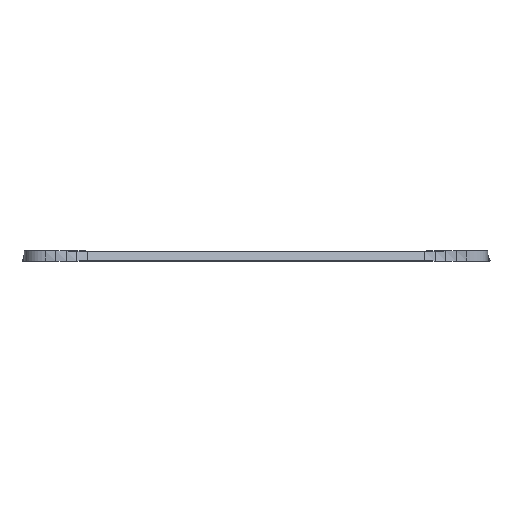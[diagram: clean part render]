
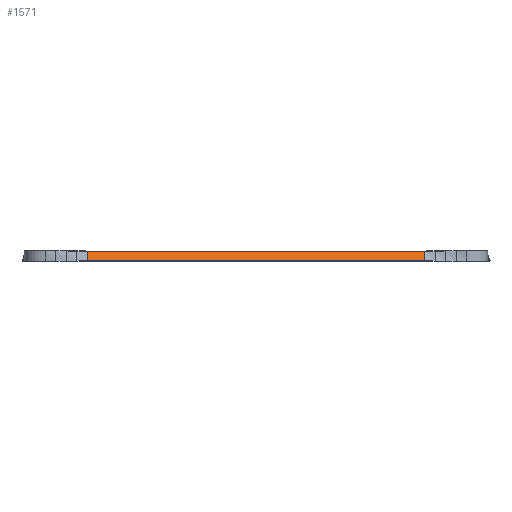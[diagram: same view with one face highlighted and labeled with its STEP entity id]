
A CAD part, front view. The second image highlights one B-rep face of the part: STEP entity #1571.
In plain terms, the highlighted planar face has unit normal (0, -0.906, 0.423).
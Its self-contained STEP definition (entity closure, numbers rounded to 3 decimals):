
#1571 = ADVANCED_FACE('',(#1572),#1586,.F.);
#1572 = FACE_BOUND('',#1573,.F.);
#1573 = EDGE_LOOP('',(#1574,#1609,#1634,#1662));
#1574 = ORIENTED_EDGE('',*,*,#1575,.T.);
#1575 = EDGE_CURVE('',#1576,#1578,#1580,.T.);
#1576 = VERTEX_POINT('',#1577);
#1577 = CARTESIAN_POINT('',(-128.,-161.687,14.263));
#1578 = VERTEX_POINT('',#1579);
#1579 = CARTESIAN_POINT('',(-128.,-158.222,21.695));
#1580 = SURFACE_CURVE('',#1581,(#1585,#1597),.PCURVE_S1.);
#1581 = LINE('',#1582,#1583);
#1582 = CARTESIAN_POINT('',(-128.,-161.687,14.263));
#1583 = VECTOR('',#1584,1.);
#1584 = DIRECTION('',(0.,0.423,0.906));
#1585 = PCURVE('',#1586,#1591);
#1586 = PLANE('',#1587);
#1587 = AXIS2_PLACEMENT_3D('',#1588,#1589,#1590);
#1588 = CARTESIAN_POINT('',(128.,-161.687,14.263));
#1589 = DIRECTION('',(0.,0.906,-0.423));
#1590 = DIRECTION('',(0.,0.423,0.906));
#1591 = DEFINITIONAL_REPRESENTATION('',(#1592),#1596);
#1592 = LINE('',#1593,#1594);
#1593 = CARTESIAN_POINT('',(0.,-256.));
#1594 = VECTOR('',#1595,1.);
#1595 = DIRECTION('',(1.,0.));
#1596 = ( GEOMETRIC_REPRESENTATION_CONTEXT(2) 
PARAMETRIC_REPRESENTATION_CONTEXT() REPRESENTATION_CONTEXT('2D SPACE',''
  ) );
#1597 = PCURVE('',#1598,#1603);
#1598 = PLANE('',#1599);
#1599 = AXIS2_PLACEMENT_3D('',#1600,#1601,#1602);
#1600 = CARTESIAN_POINT('',(-128.,-161.687,14.263));
#1601 = DIRECTION('',(1.,0.,0.));
#1602 = DIRECTION('',(-0.,0.539,0.842));
#1603 = DEFINITIONAL_REPRESENTATION('',(#1604),#1608);
#1604 = LINE('',#1605,#1606);
#1605 = CARTESIAN_POINT('',(0.,0.));
#1606 = VECTOR('',#1607,1.);
#1607 = DIRECTION('',(0.991,0.133));
#1608 = ( GEOMETRIC_REPRESENTATION_CONTEXT(2) 
PARAMETRIC_REPRESENTATION_CONTEXT() REPRESENTATION_CONTEXT('2D SPACE',''
  ) );
#1609 = ORIENTED_EDGE('',*,*,#1610,.T.);
#1610 = EDGE_CURVE('',#1578,#1611,#1613,.T.);
#1611 = VERTEX_POINT('',#1612);
#1612 = CARTESIAN_POINT('',(128.,-158.222,21.695));
#1613 = SURFACE_CURVE('',#1614,(#1617,#1623),.PCURVE_S1.);
#1614 = B_SPLINE_CURVE_WITH_KNOTS('',1,(#1615,#1616),.UNSPECIFIED.,.F.,
  .F.,(2,2),(0.,1.),.PIECEWISE_BEZIER_KNOTS.);
#1615 = CARTESIAN_POINT('',(-128.,-158.222,21.695));
#1616 = CARTESIAN_POINT('',(128.,-158.222,21.695));
#1617 = PCURVE('',#1586,#1618);
#1618 = DEFINITIONAL_REPRESENTATION('',(#1619),#1622);
#1619 = B_SPLINE_CURVE_WITH_KNOTS('',1,(#1620,#1621),.UNSPECIFIED.,.F.,
  .F.,(2,2),(0.,1.),.PIECEWISE_BEZIER_KNOTS.);
#1620 = CARTESIAN_POINT('',(8.2,-256.));
#1621 = CARTESIAN_POINT('',(8.2,0.));
#1622 = ( GEOMETRIC_REPRESENTATION_CONTEXT(2) 
PARAMETRIC_REPRESENTATION_CONTEXT() REPRESENTATION_CONTEXT('2D SPACE',''
  ) );
#1623 = PCURVE('',#1624,#1629);
#1624 = PLANE('',#1625);
#1625 = AXIS2_PLACEMENT_3D('',#1626,#1627,#1628);
#1626 = CARTESIAN_POINT('',(128.,-158.222,21.695));
#1627 = DIRECTION('',(0.,-0.423,-0.906));
#1628 = DIRECTION('',(0.,0.906,-0.423));
#1629 = DEFINITIONAL_REPRESENTATION('',(#1630),#1633);
#1630 = B_SPLINE_CURVE_WITH_KNOTS('',1,(#1631,#1632),.UNSPECIFIED.,.F.,
  .F.,(2,2),(0.,1.),.PIECEWISE_BEZIER_KNOTS.);
#1631 = CARTESIAN_POINT('',(0.,-256.));
#1632 = CARTESIAN_POINT('',(0.,0.));
#1633 = ( GEOMETRIC_REPRESENTATION_CONTEXT(2) 
PARAMETRIC_REPRESENTATION_CONTEXT() REPRESENTATION_CONTEXT('2D SPACE',''
  ) );
#1634 = ORIENTED_EDGE('',*,*,#1635,.F.);
#1635 = EDGE_CURVE('',#1636,#1611,#1638,.T.);
#1636 = VERTEX_POINT('',#1637);
#1637 = CARTESIAN_POINT('',(128.,-161.687,14.263));
#1638 = SURFACE_CURVE('',#1639,(#1643,#1650),.PCURVE_S1.);
#1639 = LINE('',#1640,#1641);
#1640 = CARTESIAN_POINT('',(128.,-161.687,14.263));
#1641 = VECTOR('',#1642,1.);
#1642 = DIRECTION('',(0.,0.423,0.906));
#1643 = PCURVE('',#1586,#1644);
#1644 = DEFINITIONAL_REPRESENTATION('',(#1645),#1649);
#1645 = LINE('',#1646,#1647);
#1646 = CARTESIAN_POINT('',(0.,0.));
#1647 = VECTOR('',#1648,1.);
#1648 = DIRECTION('',(1.,0.));
#1649 = ( GEOMETRIC_REPRESENTATION_CONTEXT(2) 
PARAMETRIC_REPRESENTATION_CONTEXT() REPRESENTATION_CONTEXT('2D SPACE',''
  ) );
#1650 = PCURVE('',#1651,#1656);
#1651 = PLANE('',#1652);
#1652 = AXIS2_PLACEMENT_3D('',#1653,#1654,#1655);
#1653 = CARTESIAN_POINT('',(128.,-161.687,14.263));
#1654 = DIRECTION('',(1.,0.,0.));
#1655 = DIRECTION('',(-0.,0.539,0.842));
#1656 = DEFINITIONAL_REPRESENTATION('',(#1657),#1661);
#1657 = LINE('',#1658,#1659);
#1658 = CARTESIAN_POINT('',(0.,0.));
#1659 = VECTOR('',#1660,1.);
#1660 = DIRECTION('',(0.991,0.133));
#1661 = ( GEOMETRIC_REPRESENTATION_CONTEXT(2) 
PARAMETRIC_REPRESENTATION_CONTEXT() REPRESENTATION_CONTEXT('2D SPACE',''
  ) );
#1662 = ORIENTED_EDGE('',*,*,#1663,.F.);
#1663 = EDGE_CURVE('',#1576,#1636,#1664,.T.);
#1664 = SURFACE_CURVE('',#1665,(#1668,#1674),.PCURVE_S1.);
#1665 = B_SPLINE_CURVE_WITH_KNOTS('',1,(#1666,#1667),.UNSPECIFIED.,.F.,
  .F.,(2,2),(0.,1.),.PIECEWISE_BEZIER_KNOTS.);
#1666 = CARTESIAN_POINT('',(-128.,-161.687,14.263));
#1667 = CARTESIAN_POINT('',(128.,-161.687,14.263));
#1668 = PCURVE('',#1586,#1669);
#1669 = DEFINITIONAL_REPRESENTATION('',(#1670),#1673);
#1670 = B_SPLINE_CURVE_WITH_KNOTS('',1,(#1671,#1672),.UNSPECIFIED.,.F.,
  .F.,(2,2),(0.,1.),.PIECEWISE_BEZIER_KNOTS.);
#1671 = CARTESIAN_POINT('',(0.,-256.));
#1672 = CARTESIAN_POINT('',(0.,0.));
#1673 = ( GEOMETRIC_REPRESENTATION_CONTEXT(2) 
PARAMETRIC_REPRESENTATION_CONTEXT() REPRESENTATION_CONTEXT('2D SPACE',''
  ) );
#1674 = PCURVE('',#1675,#1680);
#1675 = PLANE('',#1676);
#1676 = AXIS2_PLACEMENT_3D('',#1677,#1678,#1679);
#1677 = CARTESIAN_POINT('',(128.,-160.69,13.798));
#1678 = DIRECTION('',(-0.,0.423,0.906));
#1679 = DIRECTION('',(0.,-0.906,0.423));
#1680 = DEFINITIONAL_REPRESENTATION('',(#1681),#1684);
#1681 = B_SPLINE_CURVE_WITH_KNOTS('',1,(#1682,#1683),.UNSPECIFIED.,.F.,
  .F.,(2,2),(0.,1.),.PIECEWISE_BEZIER_KNOTS.);
#1682 = CARTESIAN_POINT('',(1.1,-256.));
#1683 = CARTESIAN_POINT('',(1.1,0.));
#1684 = ( GEOMETRIC_REPRESENTATION_CONTEXT(2) 
PARAMETRIC_REPRESENTATION_CONTEXT() REPRESENTATION_CONTEXT('2D SPACE',''
  ) );
